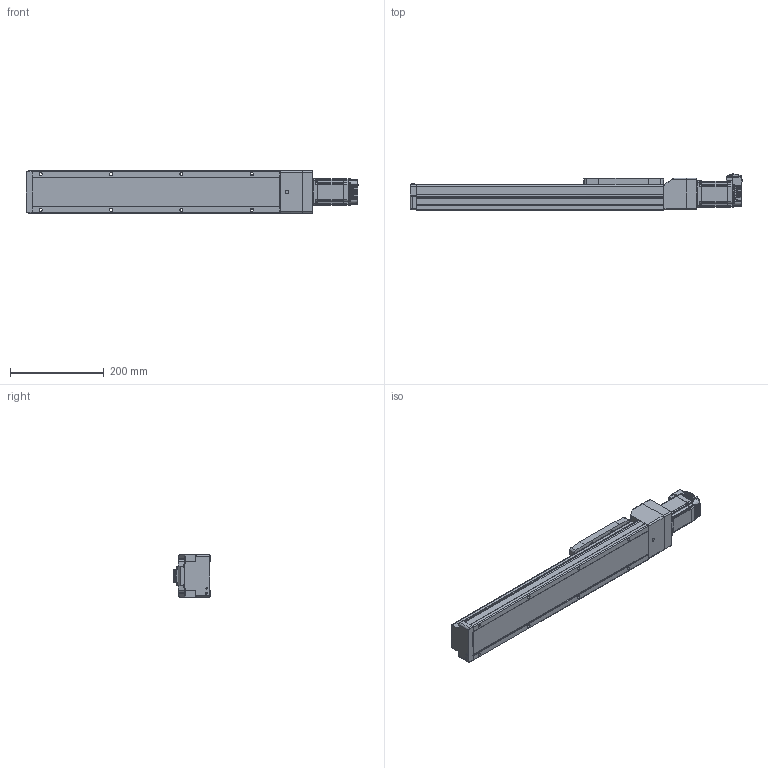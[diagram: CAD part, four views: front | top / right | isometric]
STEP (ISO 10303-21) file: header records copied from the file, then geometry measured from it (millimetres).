
FILE_DESCRIPTION (( 'STEP AP214' ), '1' );
FILE_NAME ('LEFS3(+)-40NM1仩-350-23L.STEP', '2023-06-02T05:07:04', ( '' ), ( '' ), 'SwSTEP 2.0', 'SolidWorks 2019', '' );
FILE_SCHEMA (( 'AUTOMOTIVE_DESIGN' ));
Length unit declared in the file: millimetre
Products named in the file (5): CM3(+)-23L50A_4-M4; LEFS3(+)-40NM1仩-350-23L; LEFS3(+)-40NM1?_BODY_350; LEFS3(+)-40NM1_Motor Flange; LEFS3(+)-40NM1_TABLE
Assembly tree (4 placements, depth 2):
  LEFS3(+)-40NM1仩-350-23L
    LEFS3(+)-40NM1?_BODY_350
    LEFS3(+)-40NM1_TABLE
    LEFS3(+)-40NM1_Motor Flange
    CM3(+)-23L50A_4-M4
Bounding box: 707.6 x 76.75 x 90 mm (x, y, z)
Volume: 3029539.7 mm3; surface area: 290456.6 mm2
Topology: 5 solids, 14 shells, 1650 faces, 4281 edges, 2648 vertices
Faces by surface type: plane 764, cylinder 515, bspline 133, cone 117, torus 74, sphere 47
Entity records: 55925 total; most frequent: CARTESIAN_POINT 13985, ORIENTED_EDGE 8412, DIRECTION 7838, EDGE_CURVE 4206, AXIS2_PLACEMENT_3D 2664, VERTEX_POINT 2648, VECTOR 2510, LINE 2510
